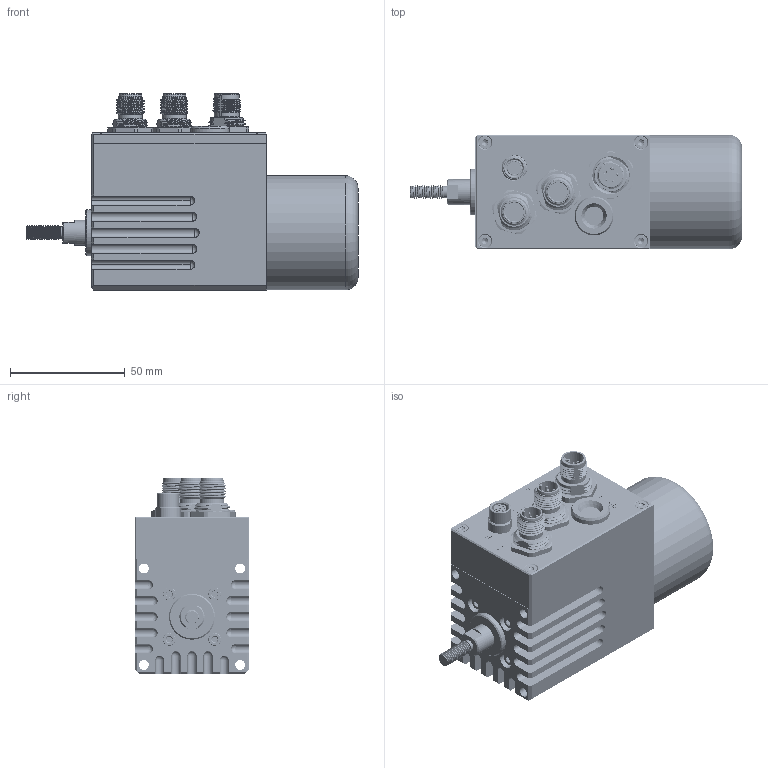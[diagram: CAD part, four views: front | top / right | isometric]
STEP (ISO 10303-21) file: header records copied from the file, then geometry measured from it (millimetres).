
FILE_DESCRIPTION(/* description */ (''),/* implementation_level */ '2;1');
FILE_NAME(/* name */ 'M6-Auen.step',/* time_stamp */ '2024-09-24T16:26:39+02:00',/* author */ (''),/* organization */ (''),/* preprocessor_version */ 'ST-DEVELOPER v20',/* originating_system */ 'Autodesk Translation Framework v13.20.0.188',/* authorisation */ '');
FILE_SCHEMA (('AUTOMOTIVE_DESIGN { 1 0 10303 214 3 1 1 }'));
Products named in the file (16): M6-Außen; 91290A115_Alloy Steel Socket Head Screw; 02-M-P.CO-50.40.F00; ASMBL_IDIO-Deckel; ASMBL_M12_Pheonix_5P-L_1425590; M12_Pheonix_5P-L_1425590; 02-M-C.CP-50.IDIO.F00; Prechter-Renner_MT-M12 (selbst konstruiert); ASMBL_M12_Murr_5P-A_male_rear; ASMBL_M12_Murr_5P-A_male_rear_1; M12_Murr_5P-A_male_rear_7000-R2115-11A2400_stp_x_a; ASMBL_M8_CUI_8P-A_female; M8_CUI_8P_female_CDM805-08A-FP-F011-67; CDM805 HOUSING; M8_PINS_FEMALE_FRONT_8P; 90236A121_Zinc-Plated Steel Torx Flat Head Screws
Assembly tree (22 placements, depth 5):
  M6-Außen
    91290A115_Alloy Steel Socket Head Screw  x4
    02-M-P.CO-50.40.F00
    ASMBL_IDIO-Deckel
      ASMBL_M12_Pheonix_5P-L_1425590
        M12_Pheonix_5P-L_1425590
      02-M-C.CP-50.IDIO.F00
      Prechter-Renner_MT-M12 (selbst konstruiert)
      ASMBL_M12_Murr_5P-A_male_rear
        M12_Murr_5P-A_male_rear_7000-R2115-11A2400_stp_x_a
      ASMBL_M12_Murr_5P-A_male_rear_1
        M12_Murr_5P-A_male_rear_7000-R2115-11A2400_stp_x_a
      ASMBL_M8_CUI_8P-A_female
        M8_CUI_8P_female_CDM805-08A-FP-F011-67
          CDM805 HOUSING
          M8_PINS_FEMALE_FRONT_8P
    90236A121_Zinc-Plated Steel Torx Flat Head Screws  x4
Bounding box: 144.7 x 50 x 85.5 mm (x, y, z)
Volume: 263575.3 mm3; surface area: 80378.2 mm2
Topology: 19 solids, 19 shells, 1942 faces, 5180 edges, 3394 vertices
Faces by surface type: cylinder 710, plane 594, bspline 308, cone 239, torus 63, sphere 28
Full cylindrical faces by diameter (mm): 0.6 x8, 0.8 x16, 1 x20, 1.3 x5, 1.5 x4, 1.52 x1, 1.55 x1, 1.6 x10, 2.1 x6, 2.35 x136, 3 x136, 3.4 x8, 4.3 x4, 4.744 x6, 5 x1, 5.5 x4, 5.6 x1, 5.884 x11, 6 x2, 6.5 x4, 6.8 x1, 7.2 x1, 7.6 x2, 8.3 x2, 8.9 x1, 9.5 x3, 10 x4, 10.6 x4, 10.75 x1, 11 x1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
Entity records: 76834 total; most frequent: CARTESIAN_POINT 45873, ORIENTED_EDGE 6988, DIRECTION 5396, EDGE_CURVE 3494, VERTEX_POINT 2310, AXIS2_PLACEMENT_3D 1950, LINE 1496, VECTOR 1496
